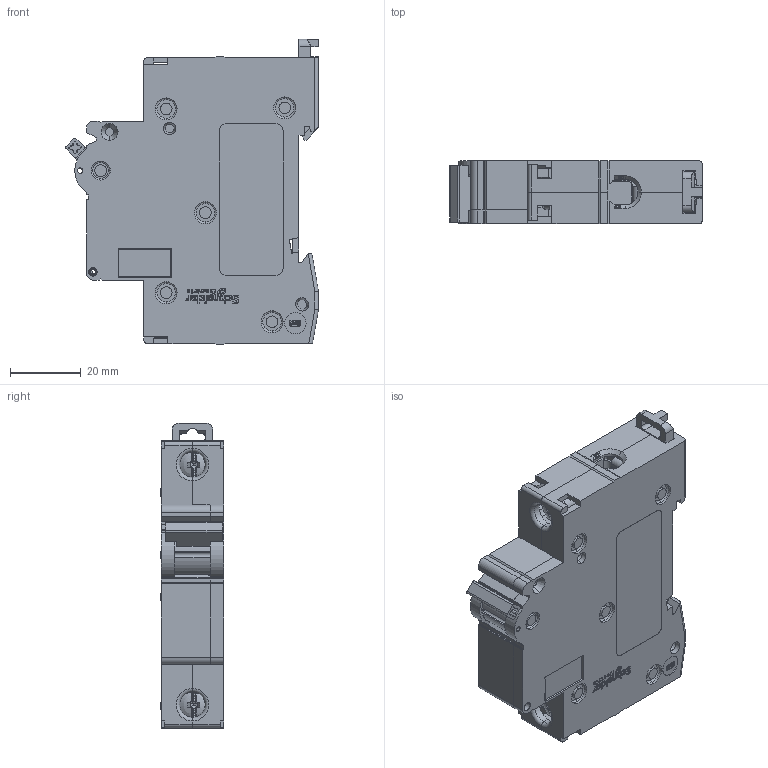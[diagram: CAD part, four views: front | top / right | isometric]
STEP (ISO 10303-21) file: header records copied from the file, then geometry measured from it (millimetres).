
FILE_DESCRIPTION((''),'2;1');
FILE_NAME('C65_1P_ASM','2018-12-16T',('SESA509781'),('Schneider-Electric'),'PRO/ENGINEER BY PARAMETRIC TECHNOLOGY CORPORATION, 2015440','PRO/ENGINEER BY PARAMETRIC TECHNOLOGY CORPORATION, 2015440','');
FILE_SCHEMA(('CONFIG_CONTROL_DESIGN'));
Products named in the file (10): 5120708500; 72583701; GHC1235600; 72431001; 4295306-00_LOCKING_CLIP; 5120708600; GHC1012000; C65_1P_BASIC_ASM; 72446907; C65_1P_ASM
Assembly tree (17 placements, depth 3):
  C65_1P_ASM
    C65_1P_BASIC_ASM
      5120708500
      72583701
      GHC1235600  x2
      72431001  x2
      4295306-00_LOCKING_CLIP
      5120708600
      GHC1012000  x4
    72446907  x2
    GHC1012000  x2
Bounding box: 71.41 x 17.95 x 86.3 mm (x, y, z)
Volume: 35501 mm3; surface area: 45648.3 mm2
Topology: 16 solids, 18 shells, 4276 faces, 11450 edges, 7330 vertices
Faces by surface type: plane 2782, cylinder 939, cone 211, torus 162, extrusion 104, bspline 48, sphere 30
Entity records: 129440 total; most frequent: CARTESIAN_POINT 29327, ORIENTED_EDGE 21434, DIRECTION 19717, EDGE_CURVE 10719, VECTOR 8063, LINE 7959, VERTEX_POINT 6889, AXIS2_PLACEMENT_3D 5827
